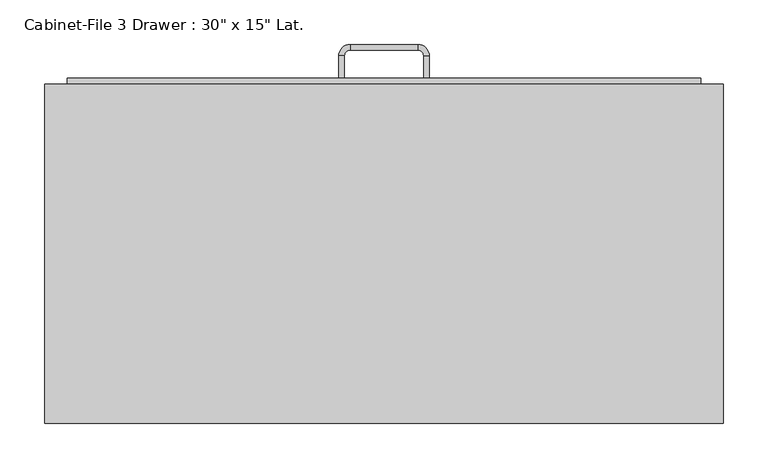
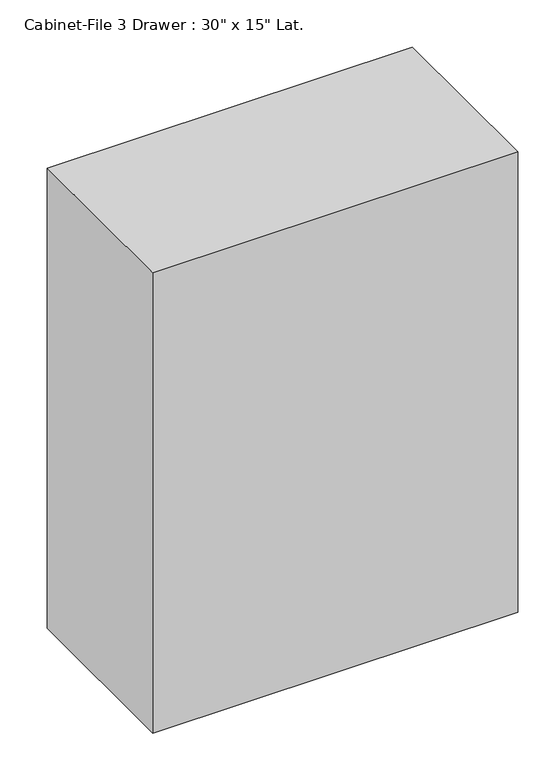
"""IFC4 building model written with IfcOpenShell, lengths in millimetres: furniture geometry."""

from ifc_helpers import new_model, si_unit, frame, origin, origin_with_axes, place, context, project, spatial, polyline, circle_curve, outline, extrude, source, transform, mapped, element, save
from ifc_brep_helpers import plane_surface, cylinder_surface, revolved_surface, advanced_brep


def furniture_5292397e(model_context):
    return source(origin(), model_context, "Body", "SolidModel", [
        extrude(outline(polyline([(253.103553, -48.3656999), (-508.896447, -48.3656999), (-508.896447, 332.6343001), (253.103553, 332.6343001), (253.103553, -48.3656999)])), origin_with_axes(), (0.0, 0.0, 1.0), 1016.0),
        extrude(outline(polyline([(227.703553, 338.9843001), (227.703553, 332.6343001), (-483.496447, 332.6343001), (-483.496447, 338.9843001), (227.703553, 338.9843001)])), frame((0.0, 0.0, 736.6), z_axis=(0.0, 0.0, 1.0), x_axis=(1.0, 0.0, 0.0)), (0.0, 0.0, 1.0), 254.0),
        extrude(outline(polyline([(227.703553, 338.9843001), (227.703553, 332.6343001), (-483.496447, 332.6343001), (-483.496447, 338.9843001), (227.703553, 338.9843001)])), frame((0.0, 0.0, 431.8), z_axis=(0.0, 0.0, 1.0), x_axis=(1.0, 0.0, 0.0)), (0.0, 0.0, 1.0), 279.4),
        extrude(outline(polyline([(227.703553, 338.9843001), (227.703553, 332.6343001), (-483.496447, 332.6343001), (-483.496447, 338.9843001), (227.703553, 338.9843001)])), frame((0.0, 0.0, 127.0), z_axis=(0.0, 0.0, 1.0), x_axis=(1.0, 0.0, 0.0)), (0.0, 0.0, 1.0), 279.4),
        advanced_brep(
        [(-172.346447, 338.9843001, 203.2), (-172.346447, 338.9843001, 215.9), (-178.696447, 338.9843001, 215.9), (-178.696447, 338.9843001, 203.2), (-178.696447, 364.3843001, 203.2), (-172.346447, 364.3843001, 203.2), (-178.696447, 364.3843001, 215.9), (-172.346447, 364.3843001, 215.9), (-165.996447, 377.0843001, 203.2), (-165.996447, 370.7343001, 203.2), (-165.996447, 377.0843001, 215.9), (-165.996447, 370.7343001, 215.9), (-89.796447, 377.0843001, 203.2), (-89.796447, 370.7343001, 203.2), (-89.796447, 377.0843001, 215.9), (-89.796447, 370.7343001, 215.9), (-77.096447, 364.3843001, 203.2), (-83.446447, 364.3843001, 203.2), (-77.096447, 364.3843001, 215.9), (-83.446447, 364.3843001, 215.9), (-83.446447, 338.9843001, 203.2), (-77.096447, 338.9843001, 203.2), (-77.096447, 338.9843001, 215.9), (-83.446447, 338.9843001, 215.9)],
        [
            (0, 1),
            (1, 2),
            (2, 3),
            (3, 0),
            (3, 4),
            (4, 5),
            (5, 0),
            (2, 6),
            (6, 4),
            (1, 7),
            (7, 6),
            (5, 7),
            (8, 9),
            (9, 5, circle_curve(frame((-165.996447, 364.3843001, 203.2), z_axis=(0.0, 0.0, 1.0), x_axis=(-1.0, 0.0, 0.0)), 6.35)),
            (4, 8, circle_curve(frame((-165.996447, 364.3843001, 203.2), z_axis=(0.0, 0.0, -1.0), x_axis=(-1.0, 0.0, 0.0)), 12.7)),
            (10, 8),
            (6, 10, circle_curve(frame((-165.996447, 364.3843001, 215.9), z_axis=(0.0, 0.0, -1.0), x_axis=(-1.0, 0.0, 0.0)), 12.7)),
            (11, 10),
            (7, 11, circle_curve(frame((-165.996447, 364.3843001, 215.9), z_axis=(0.0, 0.0, -1.0), x_axis=(-1.0, 0.0, 0.0)), 6.35)),
            (9, 11),
            (8, 12),
            (12, 13),
            (13, 9),
            (10, 14),
            (14, 12),
            (11, 15),
            (15, 14),
            (13, 15),
            (16, 17),
            (17, 13, circle_curve(frame((-89.796447, 364.3843001, 203.2), z_axis=(0.0, 0.0, 1.0), x_axis=(0.0, 1.0, 0.0)), 6.35)),
            (12, 16, circle_curve(frame((-89.796447, 364.3843001, 203.2), z_axis=(0.0, 0.0, -1.0), x_axis=(0.0, 1.0, 0.0)), 12.7)),
            (18, 16),
            (14, 18, circle_curve(frame((-89.796447, 364.3843001, 215.9), z_axis=(0.0, 0.0, -1.0), x_axis=(0.0, 1.0, 0.0)), 12.7)),
            (19, 18),
            (15, 19, circle_curve(frame((-89.796447, 364.3843001, 215.9), z_axis=(0.0, 0.0, -1.0), x_axis=(0.0, 1.0, 0.0)), 6.35)),
            (17, 19),
            (20, 21),
            (21, 22),
            (22, 23),
            (23, 20),
            (16, 21),
            (20, 17),
            (18, 22),
            (19, 23),
        ],
        [
            plane_surface(frame((-978.8216451, 338.9843001, 0.0), z_axis=(0.0, -1.0, 0.0), x_axis=(0.0, 0.0, -1.0))),
            plane_surface(frame((-172.346447, 338.9843001, 203.2), z_axis=(0.0, 0.0, -1.0), x_axis=(0.0, 1.0, 0.0))),
            plane_surface(frame((-178.696447, 338.9843001, 203.2), z_axis=(-1.0, 0.0, 0.0), x_axis=(0.0, 1.0, 0.0))),
            plane_surface(frame((-178.696447, 338.9843001, 215.9), z_axis=(0.0, 0.0, 1.0), x_axis=(0.0, 1.0, 0.0))),
            plane_surface(frame((-172.346447, 338.9843001, 215.9), z_axis=(1.0, 0.0, 0.0), x_axis=(0.0, 1.0, 0.0))),
            plane_surface(frame((-165.996447, 364.3843001, 203.2), z_axis=(0.0, 0.0, -1.0), x_axis=(-1.0, 0.0, 0.0))),
            cylinder_surface(frame((-165.996447, 364.3843001, 0.0), z_axis=(0.0, 0.0, 1.0), x_axis=(-1.0, 0.0, 0.0)), 12.7),
            plane_surface(frame((-165.996447, 364.3843001, 215.9), z_axis=(0.0, 0.0, 1.0), x_axis=(-1.0, 0.0, 0.0))),
            revolved_surface(polyline([(-172.34644699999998, 364.3843001, 215.9), (-172.34644699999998, 364.3843001, 203.2)]), (-165.996447, 364.3843001, 0.0), (0.0, 0.0, 1.0)),
            plane_surface(frame((-165.996447, 370.7343001, 203.2), z_axis=(0.0, 0.0, -1.0), x_axis=(1.0, 0.0, 0.0))),
            plane_surface(frame((-165.996447, 377.0843001, 203.2), z_axis=(0.0, 1.0, 0.0), x_axis=(1.0, 0.0, 0.0))),
            plane_surface(frame((-165.996447, 377.0843001, 215.9), z_axis=(0.0, 0.0, 1.0), x_axis=(1.0, 0.0, 0.0))),
            plane_surface(frame((-165.996447, 370.7343001, 215.9), z_axis=(0.0, -1.0, 0.0), x_axis=(1.0, 0.0, 0.0))),
            plane_surface(frame((-89.796447, 364.3843001, 203.2), z_axis=(0.0, 0.0, -1.0), x_axis=(0.0, 1.0, 0.0))),
            cylinder_surface(frame((-89.796447, 364.3843001, 0.0), z_axis=(0.0, 0.0, 1.0), x_axis=(0.0, 1.0, 0.0)), 12.7),
            plane_surface(frame((-89.796447, 364.3843001, 215.9), z_axis=(0.0, 0.0, 1.0), x_axis=(0.0, 1.0, 0.0))),
            revolved_surface(polyline([(-89.796447, 370.73430010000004, 215.9), (-89.796447, 370.73430010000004, 203.2)]), (-89.796447, 364.3843001, 0.0), (0.0, 0.0, 1.0)),
            plane_surface(frame((-877.2216451, 338.9843001, 0.0), z_axis=(0.0, -1.0, 0.0), x_axis=(0.0, 0.0, 1.0))),
            plane_surface(frame((-83.446447, 364.3843001, 203.2), z_axis=(0.0, 0.0, -1.0), x_axis=(0.0, -1.0, 0.0))),
            plane_surface(frame((-77.096447, 364.3843001, 203.2), z_axis=(1.0, 0.0, 0.0), x_axis=(0.0, -1.0, 0.0))),
            plane_surface(frame((-77.096447, 364.3843001, 215.9), z_axis=(0.0, 0.0, 1.0), x_axis=(0.0, -1.0, 0.0))),
            plane_surface(frame((-83.446447, 364.3843001, 215.9), z_axis=(-1.0, 0.0, 0.0), x_axis=(0.0, -1.0, 0.0))),
        ],
        [
            (0, [[1, 2, 3, 4]]),
            (1, [[5, 6, 7, -4]]),
            (2, [[8, 9, -5, -3]]),
            (3, [[10, 11, -8, -2]]),
            (4, [[-7, 12, -10, -1]]),
            (5, [[13, 14, -6, 15]]),
            (6, [[16, -15, -9, 17]]),
            (7, [[18, -17, -11, 19]]),
            (8, [[20, -19, -12, -14]]),
            (9, [[21, 22, 23, -13]]),
            (10, [[24, 25, -21, -16]]),
            (11, [[26, 27, -24, -18]]),
            (12, [[-23, 28, -26, -20]]),
            (13, [[29, 30, -22, 31]]),
            (14, [[32, -31, -25, 33]]),
            (15, [[34, -33, -27, 35]]),
            (16, [[36, -35, -28, -30]]),
            (17, [[37, 38, 39, 40]]),
            (18, [[41, -37, 42, -29]]),
            (19, [[43, -38, -41, -32]]),
            (20, [[44, -39, -43, -34]]),
            (21, [[-42, -40, -44, -36]]),
        ],
    ),
        advanced_brep(
        [(-172.346447, 338.9843001, 482.6), (-172.346447, 338.9843001, 495.3), (-178.696447, 338.9843001, 495.3), (-178.696447, 338.9843001, 482.6), (-178.696447, 364.3843001, 482.6), (-172.346447, 364.3843001, 482.6), (-178.696447, 364.3843001, 495.3), (-172.346447, 364.3843001, 495.3), (-165.996447, 377.0843001, 482.6), (-165.996447, 370.7343001, 482.6), (-165.996447, 377.0843001, 495.3), (-165.996447, 370.7343001, 495.3), (-89.796447, 377.0843001, 482.6), (-89.796447, 370.7343001, 482.6), (-89.796447, 377.0843001, 495.3), (-89.796447, 370.7343001, 495.3), (-77.096447, 364.3843001, 482.6), (-83.446447, 364.3843001, 482.6), (-77.096447, 364.3843001, 495.3), (-83.446447, 364.3843001, 495.3), (-83.446447, 338.9843001, 482.6), (-77.096447, 338.9843001, 482.6), (-77.096447, 338.9843001, 495.3), (-83.446447, 338.9843001, 495.3)],
        [
            (0, 1),
            (1, 2),
            (2, 3),
            (3, 0),
            (3, 4),
            (4, 5),
            (5, 0),
            (2, 6),
            (6, 4),
            (1, 7),
            (7, 6),
            (5, 7),
            (8, 9),
            (9, 5, circle_curve(frame((-165.996447, 364.3843001, 482.6), z_axis=(0.0, 0.0, 1.0), x_axis=(-1.0, 0.0, 0.0)), 6.35)),
            (4, 8, circle_curve(frame((-165.996447, 364.3843001, 482.6), z_axis=(0.0, 0.0, -1.0), x_axis=(-1.0, 0.0, 0.0)), 12.7)),
            (10, 8),
            (6, 10, circle_curve(frame((-165.996447, 364.3843001, 495.3), z_axis=(0.0, 0.0, -1.0), x_axis=(-1.0, 0.0, 0.0)), 12.7)),
            (11, 10),
            (7, 11, circle_curve(frame((-165.996447, 364.3843001, 495.3), z_axis=(0.0, 0.0, -1.0), x_axis=(-1.0, 0.0, 0.0)), 6.35)),
            (9, 11),
            (8, 12),
            (12, 13),
            (13, 9),
            (10, 14),
            (14, 12),
            (11, 15),
            (15, 14),
            (13, 15),
            (16, 17),
            (17, 13, circle_curve(frame((-89.796447, 364.3843001, 482.6), z_axis=(0.0, 0.0, 1.0), x_axis=(0.0, 1.0, 0.0)), 6.35)),
            (12, 16, circle_curve(frame((-89.796447, 364.3843001, 482.6), z_axis=(0.0, 0.0, -1.0), x_axis=(0.0, 1.0, 0.0)), 12.7)),
            (18, 16),
            (14, 18, circle_curve(frame((-89.796447, 364.3843001, 495.3), z_axis=(0.0, 0.0, -1.0), x_axis=(0.0, 1.0, 0.0)), 12.7)),
            (19, 18),
            (15, 19, circle_curve(frame((-89.796447, 364.3843001, 495.3), z_axis=(0.0, 0.0, -1.0), x_axis=(0.0, 1.0, 0.0)), 6.35)),
            (17, 19),
            (20, 21),
            (21, 22),
            (22, 23),
            (23, 20),
            (16, 21),
            (20, 17),
            (18, 22),
            (19, 23),
        ],
        [
            plane_surface(frame((-978.8216451, 338.9843001, 0.0), z_axis=(0.0, -1.0, 0.0), x_axis=(0.0, 0.0, -1.0))),
            plane_surface(frame((-172.346447, 338.9843001, 482.6), z_axis=(0.0, 0.0, -1.0), x_axis=(0.0, 1.0, 0.0))),
            plane_surface(frame((-178.696447, 338.9843001, 482.6), z_axis=(-1.0, 0.0, 0.0), x_axis=(0.0, 1.0, 0.0))),
            plane_surface(frame((-178.696447, 338.9843001, 495.3), z_axis=(0.0, 0.0, 1.0), x_axis=(0.0, 1.0, 0.0))),
            plane_surface(frame((-172.346447, 338.9843001, 495.3), z_axis=(1.0, 0.0, 0.0), x_axis=(0.0, 1.0, 0.0))),
            plane_surface(frame((-165.996447, 364.3843001, 482.6), z_axis=(0.0, 0.0, -1.0), x_axis=(-1.0, 0.0, 0.0))),
            cylinder_surface(frame((-165.996447, 364.3843001, 0.0), z_axis=(0.0, 0.0, 1.0), x_axis=(-1.0, 0.0, 0.0)), 12.7),
            plane_surface(frame((-165.996447, 364.3843001, 495.3), z_axis=(0.0, 0.0, 1.0), x_axis=(-1.0, 0.0, 0.0))),
            revolved_surface(polyline([(-172.34644699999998, 364.3843001, 495.3), (-172.34644699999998, 364.3843001, 482.6)]), (-165.996447, 364.3843001, 0.0), (0.0, 0.0, 1.0)),
            plane_surface(frame((-165.996447, 370.7343001, 482.6), z_axis=(0.0, 0.0, -1.0), x_axis=(1.0, 0.0, 0.0))),
            plane_surface(frame((-165.996447, 377.0843001, 482.6), z_axis=(0.0, 1.0, 0.0), x_axis=(1.0, 0.0, 0.0))),
            plane_surface(frame((-165.996447, 377.0843001, 495.3), z_axis=(0.0, 0.0, 1.0), x_axis=(1.0, 0.0, 0.0))),
            plane_surface(frame((-165.996447, 370.7343001, 495.3), z_axis=(0.0, -1.0, 0.0), x_axis=(1.0, 0.0, 0.0))),
            plane_surface(frame((-89.796447, 364.3843001, 482.6), z_axis=(0.0, 0.0, -1.0), x_axis=(0.0, 1.0, 0.0))),
            cylinder_surface(frame((-89.796447, 364.3843001, 0.0), z_axis=(0.0, 0.0, 1.0), x_axis=(0.0, 1.0, 0.0)), 12.7),
            plane_surface(frame((-89.796447, 364.3843001, 495.3), z_axis=(0.0, 0.0, 1.0), x_axis=(0.0, 1.0, 0.0))),
            revolved_surface(polyline([(-89.796447, 370.73430010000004, 495.3), (-89.796447, 370.73430010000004, 482.6)]), (-89.796447, 364.3843001, 0.0), (0.0, 0.0, 1.0)),
            plane_surface(frame((-877.2216451, 338.9843001, 0.0), z_axis=(0.0, -1.0, 0.0), x_axis=(0.0, 0.0, 1.0))),
            plane_surface(frame((-83.446447, 364.3843001, 482.6), z_axis=(0.0, 0.0, -1.0), x_axis=(0.0, -1.0, 0.0))),
            plane_surface(frame((-77.096447, 364.3843001, 482.6), z_axis=(1.0, 0.0, 0.0), x_axis=(0.0, -1.0, 0.0))),
            plane_surface(frame((-77.096447, 364.3843001, 495.3), z_axis=(0.0, 0.0, 1.0), x_axis=(0.0, -1.0, 0.0))),
            plane_surface(frame((-83.446447, 364.3843001, 495.3), z_axis=(-1.0, 0.0, 0.0), x_axis=(0.0, -1.0, 0.0))),
        ],
        [
            (0, [[1, 2, 3, 4]]),
            (1, [[5, 6, 7, -4]]),
            (2, [[8, 9, -5, -3]]),
            (3, [[10, 11, -8, -2]]),
            (4, [[-7, 12, -10, -1]]),
            (5, [[13, 14, -6, 15]]),
            (6, [[16, -15, -9, 17]]),
            (7, [[18, -17, -11, 19]]),
            (8, [[20, -19, -12, -14]]),
            (9, [[21, 22, 23, -13]]),
            (10, [[24, 25, -21, -16]]),
            (11, [[26, 27, -24, -18]]),
            (12, [[-23, 28, -26, -20]]),
            (13, [[29, 30, -22, 31]]),
            (14, [[32, -31, -25, 33]]),
            (15, [[34, -33, -27, 35]]),
            (16, [[36, -35, -28, -30]]),
            (17, [[37, 38, 39, 40]]),
            (18, [[41, -37, 42, -29]]),
            (19, [[43, -38, -41, -32]]),
            (20, [[44, -39, -43, -34]]),
            (21, [[-42, -40, -44, -36]]),
        ],
    ),
        advanced_brep(
        [(-172.346447, 338.9843001, 787.4), (-172.346447, 338.9843001, 800.1), (-178.696447, 338.9843001, 800.1), (-178.696447, 338.9843001, 787.4), (-178.696447, 364.3843001, 787.4), (-172.346447, 364.3843001, 787.4), (-178.696447, 364.3843001, 800.1), (-172.346447, 364.3843001, 800.1), (-165.996447, 377.0843001, 787.4), (-165.996447, 370.7343001, 787.4), (-165.996447, 377.0843001, 800.1), (-165.996447, 370.7343001, 800.1), (-89.796447, 377.0843001, 787.4), (-89.796447, 370.7343001, 787.4), (-89.796447, 377.0843001, 800.1), (-89.796447, 370.7343001, 800.1), (-77.096447, 364.3843001, 787.4), (-83.446447, 364.3843001, 787.4), (-77.096447, 364.3843001, 800.1), (-83.446447, 364.3843001, 800.1), (-83.446447, 338.9843001, 787.4), (-77.096447, 338.9843001, 787.4), (-77.096447, 338.9843001, 800.1), (-83.446447, 338.9843001, 800.1)],
        [
            (0, 1),
            (1, 2),
            (2, 3),
            (3, 0),
            (3, 4),
            (4, 5),
            (5, 0),
            (2, 6),
            (6, 4),
            (1, 7),
            (7, 6),
            (5, 7),
            (8, 9),
            (9, 5, circle_curve(frame((-165.996447, 364.3843001, 787.4), z_axis=(0.0, 0.0, 1.0), x_axis=(-1.0, 0.0, 0.0)), 6.35)),
            (4, 8, circle_curve(frame((-165.996447, 364.3843001, 787.4), z_axis=(0.0, 0.0, -1.0), x_axis=(-1.0, 0.0, 0.0)), 12.7)),
            (10, 8),
            (6, 10, circle_curve(frame((-165.996447, 364.3843001, 800.1), z_axis=(0.0, 0.0, -1.0), x_axis=(-1.0, 0.0, 0.0)), 12.7)),
            (11, 10),
            (7, 11, circle_curve(frame((-165.996447, 364.3843001, 800.1), z_axis=(0.0, 0.0, -1.0), x_axis=(-1.0, 0.0, 0.0)), 6.35)),
            (9, 11),
            (8, 12),
            (12, 13),
            (13, 9),
            (10, 14),
            (14, 12),
            (11, 15),
            (15, 14),
            (13, 15),
            (16, 17),
            (17, 13, circle_curve(frame((-89.796447, 364.3843001, 787.4), z_axis=(0.0, 0.0, 1.0), x_axis=(0.0, 1.0, 0.0)), 6.35)),
            (12, 16, circle_curve(frame((-89.796447, 364.3843001, 787.4), z_axis=(0.0, 0.0, -1.0), x_axis=(0.0, 1.0, 0.0)), 12.7)),
            (18, 16),
            (14, 18, circle_curve(frame((-89.796447, 364.3843001, 800.1), z_axis=(0.0, 0.0, -1.0), x_axis=(0.0, 1.0, 0.0)), 12.7)),
            (19, 18),
            (15, 19, circle_curve(frame((-89.796447, 364.3843001, 800.1), z_axis=(0.0, 0.0, -1.0), x_axis=(0.0, 1.0, 0.0)), 6.35)),
            (17, 19),
            (20, 21),
            (21, 22),
            (22, 23),
            (23, 20),
            (16, 21),
            (20, 17),
            (18, 22),
            (19, 23),
        ],
        [
            plane_surface(frame((-978.8216451, 338.9843001, 0.0), z_axis=(0.0, -1.0, 0.0), x_axis=(0.0, 0.0, -1.0))),
            plane_surface(frame((-172.346447, 338.9843001, 787.4), z_axis=(0.0, 0.0, -1.0), x_axis=(0.0, 1.0, 0.0))),
            plane_surface(frame((-178.696447, 338.9843001, 787.4), z_axis=(-1.0, 0.0, 0.0), x_axis=(0.0, 1.0, 0.0))),
            plane_surface(frame((-178.696447, 338.9843001, 800.1), z_axis=(0.0, 0.0, 1.0), x_axis=(0.0, 1.0, 0.0))),
            plane_surface(frame((-172.346447, 338.9843001, 800.1), z_axis=(1.0, 0.0, 0.0), x_axis=(0.0, 1.0, 0.0))),
            plane_surface(frame((-165.996447, 364.3843001, 787.4), z_axis=(0.0, 0.0, -1.0), x_axis=(-1.0, 0.0, 0.0))),
            cylinder_surface(frame((-165.996447, 364.3843001, 0.0), z_axis=(0.0, 0.0, 1.0), x_axis=(-1.0, 0.0, 0.0)), 12.7),
            plane_surface(frame((-165.996447, 364.3843001, 800.1), z_axis=(0.0, 0.0, 1.0), x_axis=(-1.0, 0.0, 0.0))),
            revolved_surface(polyline([(-172.34644699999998, 364.3843001, 800.1), (-172.34644699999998, 364.3843001, 787.4)]), (-165.996447, 364.3843001, 0.0), (0.0, 0.0, 1.0)),
            plane_surface(frame((-165.996447, 370.7343001, 787.4), z_axis=(0.0, 0.0, -1.0), x_axis=(1.0, 0.0, 0.0))),
            plane_surface(frame((-165.996447, 377.0843001, 787.4), z_axis=(0.0, 1.0, 0.0), x_axis=(1.0, 0.0, 0.0))),
            plane_surface(frame((-165.996447, 377.0843001, 800.1), z_axis=(0.0, 0.0, 1.0), x_axis=(1.0, 0.0, 0.0))),
            plane_surface(frame((-165.996447, 370.7343001, 800.1), z_axis=(0.0, -1.0, 0.0), x_axis=(1.0, 0.0, 0.0))),
            plane_surface(frame((-89.796447, 364.3843001, 787.4), z_axis=(0.0, 0.0, -1.0), x_axis=(0.0, 1.0, 0.0))),
            cylinder_surface(frame((-89.796447, 364.3843001, 0.0), z_axis=(0.0, 0.0, 1.0), x_axis=(0.0, 1.0, 0.0)), 12.7),
            plane_surface(frame((-89.796447, 364.3843001, 800.1), z_axis=(0.0, 0.0, 1.0), x_axis=(0.0, 1.0, 0.0))),
            revolved_surface(polyline([(-89.796447, 370.73430010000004, 800.1), (-89.796447, 370.73430010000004, 787.4)]), (-89.796447, 364.3843001, 0.0), (0.0, 0.0, 1.0)),
            plane_surface(frame((-877.2216451, 338.9843001, 0.0), z_axis=(0.0, -1.0, 0.0), x_axis=(0.0, 0.0, 1.0))),
            plane_surface(frame((-83.446447, 364.3843001, 787.4), z_axis=(0.0, 0.0, -1.0), x_axis=(0.0, -1.0, 0.0))),
            plane_surface(frame((-77.096447, 364.3843001, 787.4), z_axis=(1.0, 0.0, 0.0), x_axis=(0.0, -1.0, 0.0))),
            plane_surface(frame((-77.096447, 364.3843001, 800.1), z_axis=(0.0, 0.0, 1.0), x_axis=(0.0, -1.0, 0.0))),
            plane_surface(frame((-83.446447, 364.3843001, 800.1), z_axis=(-1.0, 0.0, 0.0), x_axis=(0.0, -1.0, 0.0))),
        ],
        [
            (0, [[1, 2, 3, 4]]),
            (1, [[5, 6, 7, -4]]),
            (2, [[8, 9, -5, -3]]),
            (3, [[10, 11, -8, -2]]),
            (4, [[-7, 12, -10, -1]]),
            (5, [[13, 14, -6, 15]]),
            (6, [[16, -15, -9, 17]]),
            (7, [[18, -17, -11, 19]]),
            (8, [[20, -19, -12, -14]]),
            (9, [[21, 22, 23, -13]]),
            (10, [[24, 25, -21, -16]]),
            (11, [[26, 27, -24, -18]]),
            (12, [[-23, 28, -26, -20]]),
            (13, [[29, 30, -22, 31]]),
            (14, [[32, -31, -25, 33]]),
            (15, [[34, -33, -27, 35]]),
            (16, [[36, -35, -28, -30]]),
            (17, [[37, 38, 39, 40]]),
            (18, [[41, -37, 42, -29]]),
            (19, [[43, -38, -41, -32]]),
            (20, [[44, -39, -43, -34]]),
            (21, [[-42, -40, -44, -36]]),
        ],
    ),
    ])


if __name__ == "__main__":
    model = new_model("IFC4")
    model_context = context("Model", 3, world=origin())
    ifc_project = project(units=[si_unit("LENGTHUNIT", "METRE", prefix="MILLI")], contexts=[model_context])
    site = spatial("IfcSite", under=ifc_project)
    building = spatial("IfcBuilding", under=site)
    placement = place(None, origin())
    furniture_shape = furniture_5292397e(model_context)
    element("IfcFurniture", 1, ObjectType="Cabinet-File 3 Drawer : 30\" x 15\" Lat.", at=placement, inside=building, context=model_context, shape_type="MappedRepresentation", body=[
        mapped(furniture_shape, transform((0.0, 0.0, 0.0), x_axis=(1.0, 0.0, 0.0), y_axis=(0.0, 1.0, 0.0), z_axis=(0.0, 0.0, 1.0))),
    ])
    save(model, "model.ifc")
